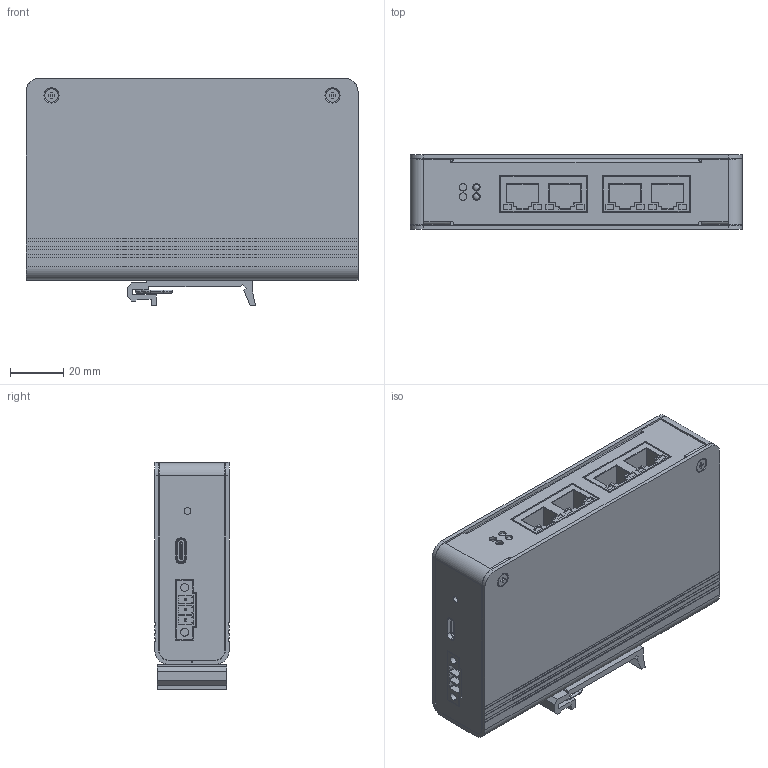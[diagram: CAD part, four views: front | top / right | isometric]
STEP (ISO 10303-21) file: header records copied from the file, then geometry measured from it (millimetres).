
FILE_DESCRIPTION((''),'2;1');
FILE_NAME('00-PXB______SW0001','2025-06-10T15:43:10',('hepeizong'),(''),'CREO PARAMETRIC BY PTC INC, 2021404','CREO PARAMETRIC BY PTC INC, 2021404','');
FILE_SCHEMA(('CONFIG_CONTROL_DESIGN','SHAPE_APPEARANCE_LAYERS_GROUPS'));
Products named in the file (1): 00-PXB______SW0001
Bounding box: 125 x 28 x 85.5 mm (x, y, z)
Volume: 91929.6 mm3; surface area: 103405.3 mm2
Topology: 4 solids, 4 shells, 1930 faces, 5096 edges, 3288 vertices
Faces by surface type: plane 1178, cylinder 586, cone 102, torus 42, bspline 16, sphere 6
Entity records: 66565 total; most frequent: CARTESIAN_POINT 13557, ORIENTED_EDGE 10184, DIRECTION 9601, EDGE_CURVE 5092, VECTOR 3635, LINE 3635, VERTEX_POINT 3288, AXIS2_PLACEMENT_3D 2983
